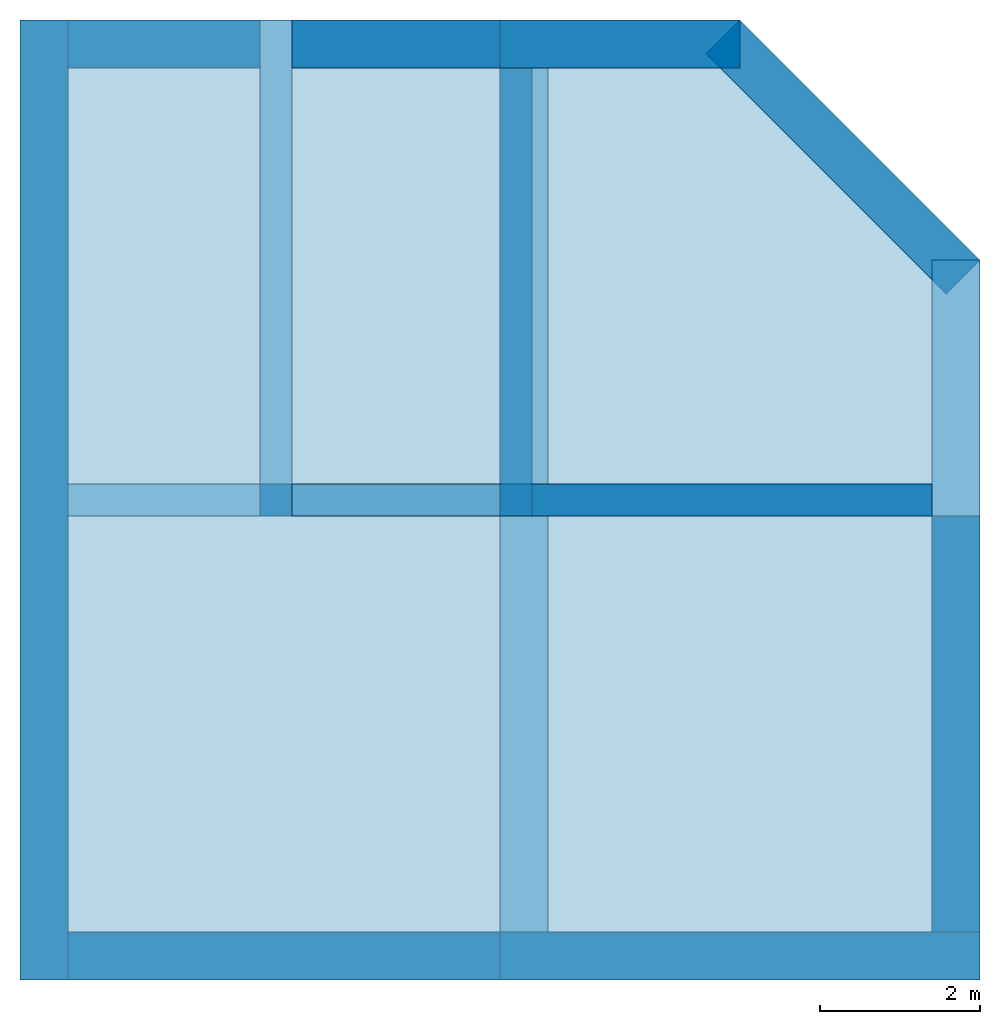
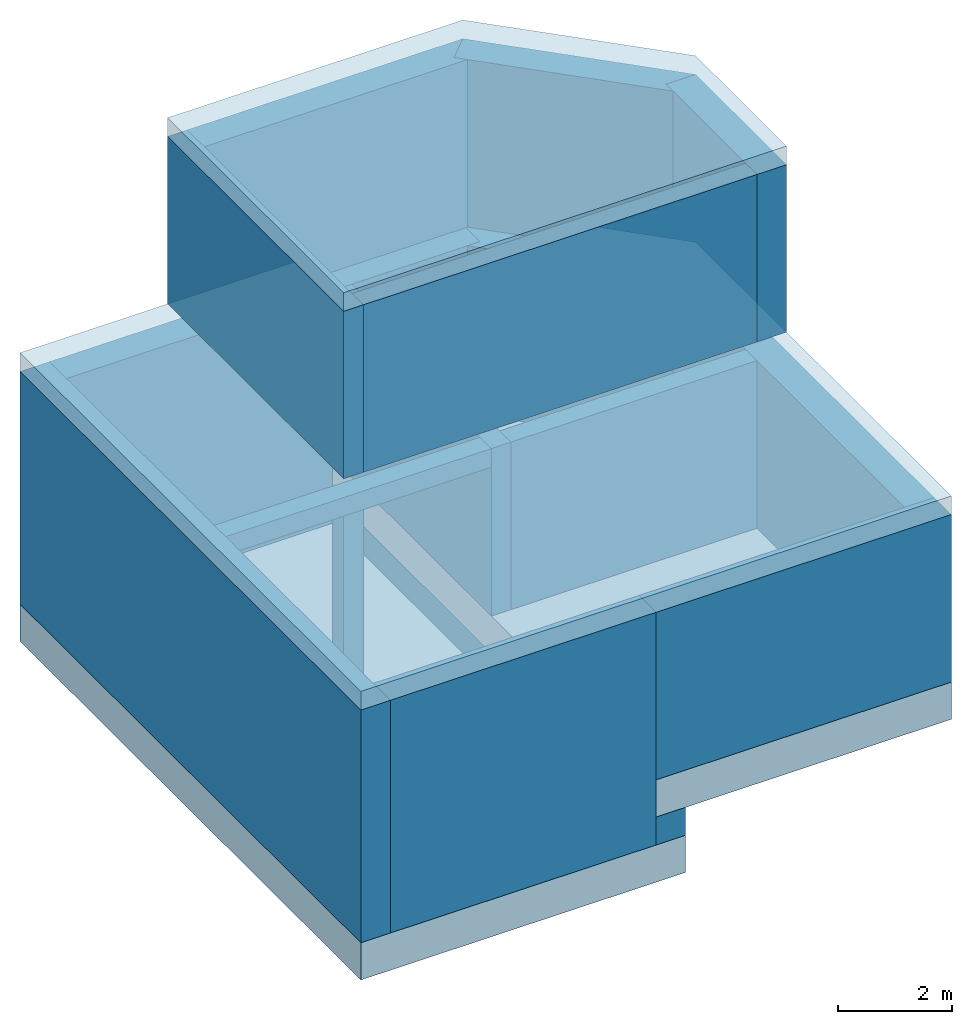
# One storey: 15 walls, 4 slabs, 1 beam, 1 column, 21 elements without a shape of their own.
"""IFC2X3 building model written with IfcOpenShell, lengths in millimetres."""

import ifcopenshell
import ifcopenshell.guid

model = None  # the IFC model being written
_history = None  # IfcOwnerHistory: only IFC2X3 demands one
_inside = {}  # id of a spatial element -> (the spatial element, [elements in it])
_under = {}  # id of a project, library or spatial element -> (it, [spatial elements below it])
_declared = {}  # id of a project -> (the project, [libraries it declares])
_typed = {}  # id of a type object -> (the type object, [elements of that type])
_made_of = {}  # id of a material, layer set ... -> (it, [elements and type objects made of it])


def new_model(schema):
    """Start an empty IFC model of exactly this schema.

    Asked for "IFC4X3", IfcOpenShell would pick the latest addendum, in which some entities
    have other attributes; the version numbers below select the first issue.
    IFC2X3 requires an IfcOwnerHistory on every rooted entity: one is made here for all.
    """
    global model, _history
    if schema == "IFC4X3":
        model = ifcopenshell.file(schema_version=(4, 3, 0, 0))
    else:
        model = ifcopenshell.file(schema=schema)
    _inside.clear()
    _under.clear()
    _declared.clear()
    _typed.clear()
    _made_of.clear()
    _history = None
    if model.schema == "IFC2X3":
        org = make("IfcOrganization", Name="unknown")
        user = make(
            "IfcPersonAndOrganization",
            ThePerson=make("IfcPerson", FamilyName="unknown"),
            TheOrganization=org,
        )
        app = make(
            "IfcApplication",
            ApplicationDeveloper=org,
            Version="unknown",
            ApplicationFullName="unknown",
            ApplicationIdentifier="unknown",
        )
        _history = make(
            "IfcOwnerHistory",
            OwningUser=user,
            OwningApplication=app,
            ChangeAction="ADDED",
            CreationDate=0,
        )
    return model


def make(cls, **values):
    """One entity of the class cls with the attributes given. An attribute that is None is left unset."""
    return model.create_entity(
        cls, **{name: value for name, value in values.items() if value is not None}
    )


def rooted(cls, **values):
    """An entity with a GlobalId (a new one), such as an element, a storey or a relation."""
    return make(cls, GlobalId=ifcopenshell.guid.new(), OwnerHistory=_history, **values)


def si_unit(unit_type, name, prefix=None):
    """IfcSIUnit, for example si_unit("LENGTHUNIT", "METRE", prefix="MILLI")."""
    return make("IfcSIUnit", UnitType=unit_type, Prefix=prefix, Name=name)


def assignment(units):
    """IfcUnitAssignment: the units of a project."""
    return None if units is None else make("IfcUnitAssignment", Units=units)


def point(xyz):
    """IfcCartesianPoint."""
    return None if xyz is None else make("IfcCartesianPoint", Coordinates=xyz)


def direction(xyz):
    """IfcDirection."""
    return None if xyz is None else make("IfcDirection", DirectionRatios=xyz)


def frame(location, z_axis=None, x_axis=None):
    """IfcAxis2Placement3D, a coordinate frame: its origin and axes. An axis left out is left unset."""
    return make(
        "IfcAxis2Placement3D",
        Location=point(location),
        Axis=direction(z_axis),
        RefDirection=direction(x_axis),
    )


def frame_2d(location, x_axis=None):
    """IfcAxis2Placement2D, a coordinate frame in the plane: its origin and x axis."""
    return make(
        "IfcAxis2Placement2D", Location=point(location), RefDirection=direction(x_axis)
    )


def origin_with_axes():
    """The frame at (0, 0, 0) with the z axis (0, 0, 1) and the x axis (1, 0, 0) written out."""
    return frame((0.0, 0.0, 0.0), z_axis=(0.0, 0.0, 1.0), x_axis=(1.0, 0.0, 0.0))


def origin_2d_with_axis():
    """The frame at (0, 0) in the plane with the x axis (1, 0) written out."""
    return frame_2d((0.0, 0.0), x_axis=(1.0, 0.0))


def place(relative_to, where):
    """IfcLocalPlacement: puts the frame where relative to a parent placement (None: the world)."""
    return make(
        "IfcLocalPlacement", PlacementRelTo=relative_to, RelativePlacement=where
    )


def context(
    kind, dimensions, precision=None, world=None, true_north=None, identifier=None
):
    """IfcGeometricRepresentationContext, for example the 3D "Model" context."""
    return make(
        "IfcGeometricRepresentationContext",
        ContextIdentifier=identifier,
        ContextType=kind,
        CoordinateSpaceDimension=dimensions,
        Precision=precision,
        WorldCoordinateSystem=world,
        TrueNorth=true_north,
    )


def subcontext(parent, identifier, kind, view, scale=None):
    """IfcGeometricRepresentationSubContext, for example "Body" below "Model"."""
    return make(
        "IfcGeometricRepresentationSubContext",
        ContextIdentifier=identifier,
        ContextType=kind,
        ParentContext=parent,
        TargetScale=scale,
        TargetView=view,
    )


def project(units=None, contexts=None):
    """IfcProject with its units and contexts."""
    return rooted(
        "IfcProject",
        Name="project",
        RepresentationContexts=contexts,
        UnitsInContext=assignment(units),
    )


def spatial(cls, under=None, at=None, **own):
    """A site, building, storey or space (cls), placed at a placement, below another one or the project."""
    s = rooted(cls, ObjectPlacement=at, **own)
    if under is not None:
        _under.setdefault(under.id(), (under, []))[1].append(s)
    return s


def polyline(points):
    """IfcPolyline through the points."""
    return make("IfcPolyline", Points=[point(p) for p in points])


def profile(cls, at=None, kind="AREA", **sizes):
    """A parametric profile (cls). Its sizes go by their IFC names, for example OverallWidth=200.0."""
    return make(cls, ProfileType=kind, Position=at, **sizes)


def rectangle(**sizes):
    """IfcRectangleProfileDef."""
    return profile("IfcRectangleProfileDef", **sizes)


def outline(outer, holes=None, kind="AREA"):
    """IfcArbitraryClosedProfileDef: a profile drawn as a closed curve; with holes, ...WithVoids."""
    if holes is None:
        return make("IfcArbitraryClosedProfileDef", ProfileType=kind, OuterCurve=outer)
    return make(
        "IfcArbitraryProfileDefWithVoids",
        ProfileType=kind,
        OuterCurve=outer,
        InnerCurves=holes,
    )


def extrude(swept, where, along, depth):
    """IfcExtrudedAreaSolid: the profile swept, set in the frame where, extruded along a direction by depth."""
    return make(
        "IfcExtrudedAreaSolid",
        SweptArea=swept,
        Position=where,
        ExtrudedDirection=direction(along),
        Depth=depth,
    )


def shape(context_of_items, identifier, shape_type, items):
    """IfcShapeRepresentation: the items that make up one representation, for example the "Body"."""
    return make(
        "IfcShapeRepresentation",
        ContextOfItems=context_of_items,
        RepresentationIdentifier=identifier,
        RepresentationType=shape_type,
        Items=items,
    )


def material(Name=None, Category=None):
    """IfcMaterial."""
    return make("IfcMaterial", Name=Name, Category=Category)


def made_of(thing, what):
    """Note that an element or type object is made of a material, layer set ...; save() writes the relation."""
    if what is not None:
        _made_of.setdefault(what.id(), (what, []))[1].append(thing)
    return thing


def type_object(cls, material=None, **own):
    """A type object (cls), such as IfcWallType, which elements share."""
    return made_of(rooted(cls, **own), material)


def element(
    cls,
    number,
    at=None,
    inside=None,
    cuts=None,
    type_object=None,
    material=None,
    context=None,
    identifier="Body",
    shape_type=None,
    held_by="IfcProductDefinitionShape",
    body=None,
    shapes=None,
    **own,
):
    """One element of the class cls, such as IfcWall. Its Tag is "e" and its number.

    at: its placement. inside: the storey or other place that contains it. cuts: it is an
    opening in that element (IfcRelVoidsElement). A single representation is given by context,
    identifier, shape_type and body (its items); several are given by shapes. held_by: the class
    of the entity that holds the representations. save() writes the other relations.
    """
    e = rooted(cls, Tag="e%d" % number, ObjectPlacement=at, **own)
    if body is not None:
        shapes = [shape(context, identifier, shape_type, body)]
    if shapes is not None:
        e.Representation = make(held_by, Representations=shapes)
    if inside is not None:
        _inside.setdefault(inside.id(), (inside, []))[1].append(e)
    if cuts is not None:
        rooted(
            "IfcRelVoidsElement", RelatingBuildingElement=cuts, RelatedOpeningElement=e
        )
    if type_object is not None:
        _typed.setdefault(type_object.id(), (type_object, []))[1].append(e)
    return made_of(e, material)


def aggregate(whole, parts):
    """IfcRelAggregates: a whole, such as a stair, and the parts it consists of."""
    return rooted("IfcRelAggregates", RelatingObject=whole, RelatedObjects=parts)


def save(model, path):
    """Write the relations noted so far, then the file.

    IfcRelAggregates (storeys below a building ...), IfcRelContainedInSpatialStructure (elements
    in a storey), IfcRelDefinesByType, IfcRelAssociatesMaterial and IfcRelDeclares: one each for
    every whole, place, type object, material and project.
    """
    for whole, parts in _under.values():
        aggregate(whole, parts)
    for where, things in _inside.values():
        rooted(
            "IfcRelContainedInSpatialStructure",
            RelatedElements=things,
            RelatingStructure=where,
        )
    for kind, things in _typed.values():
        rooted("IfcRelDefinesByType", RelatedObjects=things, RelatingType=kind)
    for what, things in _made_of.values():
        rooted("IfcRelAssociatesMaterial", RelatedObjects=things, RelatingMaterial=what)
    for by, libraries in _declared.values():
        rooted("IfcRelDeclares", RelatingContext=by, RelatedDefinitions=libraries)
    model.write(path)


model = new_model("IFC2X3")

# Units and contexts
model_context = context("Model", 3, precision=1e-05, world=origin_with_axes())
body_context = subcontext(model_context, "Body", "Model", "MODEL_VIEW")
ifc_project = project(units=[si_unit("LENGTHUNIT", "METRE", prefix="MILLI"), si_unit("AREAUNIT", "SQUARE_METRE"), si_unit("VOLUMEUNIT", "CUBIC_METRE"), si_unit("MASSUNIT", "GRAM", prefix="KILO"), si_unit("TIMEUNIT", "SECOND"), si_unit("PLANEANGLEUNIT", "RADIAN"), si_unit("SOLIDANGLEUNIT", "STERADIAN"), si_unit("THERMODYNAMICTEMPERATUREUNIT", "DEGREE_CELSIUS"), si_unit("LUMINOUSINTENSITYUNIT", "LUMEN")], contexts=[model_context])

# Site, building, storey
site_placement = place(None, origin_with_axes())
site = spatial("IfcSite", under=ifc_project, at=site_placement, Name="Undefined", CompositionType="ELEMENT")
building_placement = place(site_placement, origin_with_axes())
building = spatial("IfcBuilding", under=site, at=building_placement, Name="Undefined", CompositionType="ELEMENT")
storey_placement = place(building_placement, origin_with_axes())
storey = spatial("IfcBuildingStorey", under=building, at=storey_placement, Name="Undefined", CompositionType="ELEMENT", Elevation=0.0)

# Assembly, column
assembly_1_placement = place(storey_placement, origin_with_axes())
assembly_1 = element("IfcElementAssembly", 1, at=assembly_1_placement, inside=storey, Name="COLUMN", AssemblyPlace="NOTDEFINED", PredefinedType="REINFORCEMENT_UNIT")
ifc_material_1 = material(Name="CONCRETE/B30_XC3")
column_type = type_object("IfcColumnType", Name="400*400", PredefinedType="NOTDEFINED")
column_placement = place(assembly_1_placement, frame((3200.0, 6000.0, 0.0), z_axis=(0.0, 0.0, 1.0), x_axis=(0.0, 1.0, 0.0)))
column = element("IfcColumn", 2, at=column_placement, type_object=column_type, material=ifc_material_1, Name="COLUMN", ObjectType="400*400", context=body_context, shape_type="SweptSolid", body=[
    extrude(rectangle(XDim=400.0, YDim=400.0, at=origin_2d_with_axis()), frame((0.0, 0.0, 4600.0), z_axis=(0.0, 0.0, -1.0), x_axis=(0.0, 1.0, 0.0)), (0.0, 0.0, 1.0), 4600.0),
])
aggregate(assembly_1, [column])

# Assembly, beam
assembly_2_placement = place(storey_placement, origin_with_axes())
assembly_2 = element("IfcElementAssembly", 3, at=assembly_2_placement, inside=storey, Name="BEAM", AssemblyPlace="NOTDEFINED", PredefinedType="REINFORCEMENT_UNIT")
beam_type = type_object("IfcBeamType", Name="400*400", PredefinedType="NOTDEFINED")
beam_placement = place(assembly_2_placement, frame((600.0, 6000.0, 4800.0), z_axis=(0.0, 0.0, 1.0), x_axis=(1.0, 0.0, 0.0)))
beam = element("IfcBeam", 4, at=beam_placement, type_object=beam_type, material=ifc_material_1, Name="BEAM", ObjectType="400*400", context=body_context, shape_type="SweptSolid", body=[
    extrude(rectangle(XDim=400.0, YDim=400.0, at=origin_2d_with_axis()), frame((5400.0, 0.0, 0.0), z_axis=(-1.0, 0.0, 0.0), x_axis=(0.0, -1.0, 0.0)), (0.0, 0.0, 1.0), 5400.0),
])
aggregate(assembly_2, [beam])

# Assembly, slab
assembly_3_placement = place(storey_placement, origin_with_axes())
assembly_3 = element("IfcElementAssembly", 5, at=assembly_3_placement, inside=storey, Name="SLAB", AssemblyPlace="NOTDEFINED", PredefinedType="REINFORCEMENT_UNIT")
ifc_material_2 = material(Name="CONCRETE/B45_XA3,XS3_Sulphat")
slab_type_1 = type_object("IfcSlabType", Name="400*6200", PredefinedType="NOTDEFINED")
slab_1_placement = place(assembly_3_placement, frame((3000.0, 12000.0, 9200.0), z_axis=(0.0, 0.0, 1.0), x_axis=(0.0, -1.0, 0.0)))
slab_1 = element("IfcSlab", 6, at=slab_1_placement, type_object=slab_type_1, material=ifc_material_2, Name="SLAB", ObjectType="400*6200", PredefinedType="FLOOR", context=body_context, shape_type="SweptSolid", body=[
    extrude(outline(polyline([(0.0, 0.0), (6200.0, 4.54747350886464e-13), (6200.0, 9000.0), (3000.00000000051, 9000.0000000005), (0.0, 6000.00000000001), (0.0, 0.0)])), frame((0.0, 0.0, -200.0), z_axis=(0.0, 0.0, 1.0), x_axis=(1.0, 0.0, 0.0)), (0.0, 0.0, 1.0), 400.0),
])
aggregate(assembly_3, [slab_1])

assembly_4_placement = place(storey_placement, origin_with_axes())
assembly_4 = element("IfcElementAssembly", 7, at=assembly_4_placement, inside=storey, Name="SLAB_Roof", AssemblyPlace="NOTDEFINED", PredefinedType="REINFORCEMENT_UNIT")
slab_type_2 = type_object("IfcSlabType", Name="400*12000", PredefinedType="NOTDEFINED")
slab_2_placement = place(assembly_4_placement, frame((5.6843418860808e-13, 12000.0, 5200.0), z_axis=(0.0, 0.0, 1.0), x_axis=(0.0, -1.0, 0.0)))
slab_2 = element("IfcSlab", 8, at=slab_2_placement, type_object=slab_type_2, material=ifc_material_2, Name="SLAB_Roof", ObjectType="400*12000", PredefinedType="FLOOR", context=body_context, shape_type="SweptSolid", body=[
    extrude(outline(polyline([(0.0, 0.0), (12000.0, 0.0), (12000.0, 12000.0), (3000.0, 12000.0), (-1.81898940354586e-12, 9000.0), (0.0, 0.0)])), frame((0.0, 0.0, -200.0), z_axis=(0.0, 0.0, 1.0), x_axis=(1.0, 0.0, 0.0)), (0.0, 0.0, 1.0), 400.0),
])
aggregate(assembly_4, [slab_2])

assembly_5_placement = place(storey_placement, origin_with_axes())
assembly_5 = element("IfcElementAssembly", 9, at=assembly_5_placement, inside=storey, Name="SLAB_Found", AssemblyPlace="NOTDEFINED", PredefinedType="REINFORCEMENT_UNIT")
slab_type_3 = type_object("IfcSlabType", Name="800*6000", PredefinedType="NOTDEFINED")
slab_3_placement = place(assembly_5_placement, frame((6000.0, 12000.0, 1000.0), z_axis=(0.0, 0.0, 1.0), x_axis=(0.0, -1.0, 0.0)))
slab_3 = element("IfcSlab", 10, at=slab_3_placement, type_object=slab_type_3, material=ifc_material_2, Name="SLAB_Found", ObjectType="800*6000", PredefinedType="FLOOR", context=body_context, shape_type="SweptSolid", body=[
    extrude(outline(polyline([(0.0, 0.0), (12000.0, 0.0), (12000.0, 6000.0), (3000.0, 6000.0), (0.0, 3000.0), (0.0, 0.0)])), frame((0.0, 0.0, -400.0), z_axis=(0.0, 0.0, 1.0), x_axis=(1.0, 0.0, 0.0)), (0.0, 0.0, 1.0), 800.0),
])
aggregate(assembly_5, [slab_3])

assembly_6_placement = place(storey_placement, origin_with_axes())
assembly_6 = element("IfcElementAssembly", 11, at=assembly_6_placement, inside=storey, Name="SLAB_Found", AssemblyPlace="NOTDEFINED", PredefinedType="REINFORCEMENT_UNIT")
slab_type_4 = type_object("IfcSlabType", Name="800*6600", PredefinedType="NOTDEFINED")
slab_4_placement = place(assembly_6_placement, frame((0.0, 12000.0, -400.0), z_axis=(0.0, 0.0, 1.0), x_axis=(0.0, -1.0, 0.0)))
slab_4 = element("IfcSlab", 12, at=slab_4_placement, type_object=slab_type_4, material=ifc_material_2, Name="SLAB_Found", ObjectType="800*6600", PredefinedType="FLOOR", context=body_context, shape_type="SweptSolid", body=[
    extrude(outline(polyline([(0.0, 0.0), (12000.0, 0.0), (12000.0, 6600.0), (-3.63797880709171e-12, 6600.0), (0.0, 0.0)])), frame((0.0, 0.0, -400.0), z_axis=(0.0, 0.0, 1.0), x_axis=(1.0, 0.0, 0.0)), (0.0, 0.0, 1.0), 800.0),
])
aggregate(assembly_6, [slab_4])

# Assembly, wall
assembly_7_placement = place(storey_placement, origin_with_axes())
assembly_7 = element("IfcElementAssembly", 13, at=assembly_7_placement, inside=storey, Name="Wall", AssemblyPlace="NOTDEFINED", PredefinedType="REINFORCEMENT_UNIT")
wall_type_1 = type_object("IfcWallType", Name="600*600", PredefinedType="NOTDEFINED")
wall_1_placement = place(assembly_7_placement, frame((6300.00000000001, -4.58442173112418e-12, 1.59161572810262e-12), z_axis=(0.0, 0.0, 1.0), x_axis=(0.0, 1.0, 0.0)))
wall_1 = element("IfcWall", 14, at=wall_1_placement, type_object=wall_type_1, material=ifc_material_2, Name="Wall", ObjectType="600*600", context=body_context, shape_type="SweptSolid", body=[
    extrude(rectangle(XDim=12000.0, YDim=600.0, at=frame_2d((0.0, 6000.00000000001), x_axis=(0.0, -1.0))), frame((0.0, 0.0, 0.0), z_axis=(0.0, 0.0, 1.0), x_axis=(0.0, -1.0, 0.0)), (0.0, 0.0, 1.0), 600.0),
])
aggregate(assembly_7, [wall_1])

assembly_8_placement = place(storey_placement, origin_with_axes())
assembly_8 = element("IfcElementAssembly", 15, at=assembly_8_placement, inside=storey, Name="Wall", AssemblyPlace="NOTDEFINED", PredefinedType="REINFORCEMENT_UNIT")
wall_type_2 = type_object("IfcWallType", Name="3600*600", PredefinedType="NOTDEFINED")
wall_2_placement = place(assembly_8_placement, frame((11787.8679656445, 8787.86796564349, 5400.0), z_axis=(0.0, 0.0, 1.0), x_axis=(-0.707106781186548, 0.707106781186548, 0.0)))
wall_2 = element("IfcWall", 16, at=wall_2_placement, type_object=wall_type_2, material=ifc_material_2, Name="Wall", ObjectType="3600*600", context=body_context, shape_type="SweptSolid", body=[
    extrude(rectangle(XDim=4242.64068712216, YDim=600.0, at=frame_2d((0.0, 2121.32034356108), x_axis=(0.0, -1.0))), frame((0.0, 0.0, 0.0), z_axis=(0.0, 0.0, 1.0), x_axis=(0.0, -1.0, 0.0)), (0.0, 0.0, 1.0), 3600.0),
])
aggregate(assembly_8, [wall_2])

assembly_9_placement = place(storey_placement, origin_with_axes())
assembly_9 = element("IfcElementAssembly", 17, at=assembly_9_placement, inside=storey, Name="Wall", AssemblyPlace="NOTDEFINED", PredefinedType="REINFORCEMENT_UNIT")
wall_3_placement = place(assembly_9_placement, frame((11700.0, 5800.0, 5400.0), z_axis=(0.0, 0.0, 1.0), x_axis=(0.0, 1.0, 0.0)))
wall_3 = element("IfcWall", 18, at=wall_3_placement, type_object=wall_type_2, material=ifc_material_2, Name="Wall", ObjectType="3600*600", context=body_context, shape_type="SweptSolid", body=[
    extrude(rectangle(XDim=3200.0, YDim=600.0, at=frame_2d((0.0, 1600.0), x_axis=(0.0, -1.0))), frame((0.0, 0.0, 0.0), z_axis=(0.0, 0.0, 1.0), x_axis=(0.0, -1.0, 0.0)), (0.0, 0.0, 1.0), 3600.0),
])
aggregate(assembly_9, [wall_3])

assembly_10_placement = place(storey_placement, origin_with_axes())
assembly_10 = element("IfcElementAssembly", 19, at=assembly_10_placement, inside=storey, Name="Wall", AssemblyPlace="NOTDEFINED", PredefinedType="REINFORCEMENT_UNIT")
wall_4_placement = place(assembly_10_placement, frame((3400.0, 11700.0, 5400.0), z_axis=(0.0, 0.0, 1.0), x_axis=(1.0, 0.0, 0.0)))
wall_4 = element("IfcWall", 20, at=wall_4_placement, type_object=wall_type_2, material=ifc_material_2, Name="Wall", ObjectType="3600*600", context=body_context, shape_type="SweptSolid", body=[
    extrude(rectangle(XDim=5600.0, YDim=600.0, at=frame_2d((0.0, 2800.0), x_axis=(0.0, -1.0))), frame((0.0, 0.0, 0.0), z_axis=(0.0, 0.0, 1.0), x_axis=(0.0, -1.0, 0.0)), (0.0, 0.0, 1.0), 3600.0),
])
aggregate(assembly_10, [wall_4])

assembly_11_placement = place(storey_placement, origin_with_axes())
assembly_11 = element("IfcElementAssembly", 21, at=assembly_11_placement, inside=storey, Name="Wall", AssemblyPlace="NOTDEFINED", PredefinedType="REINFORCEMENT_UNIT")
ifc_material_3 = material(Name="CONCRETE/Concrete_Undefined")
wall_5_placement = place(assembly_11_placement, frame((11700.0, 600.0, 1400.0), z_axis=(0.0, 0.0, 1.0), x_axis=(0.0, 1.0, 0.0)))
wall_5 = element("IfcWall", 22, at=wall_5_placement, type_object=wall_type_2, material=ifc_material_3, Name="Wall", ObjectType="3600*600", context=body_context, shape_type="SweptSolid", body=[
    extrude(rectangle(XDim=8400.0, YDim=600.0, at=frame_2d((0.0, 4200.0), x_axis=(0.0, -1.0))), frame((0.0, 0.0, 0.0), z_axis=(0.0, 0.0, 1.0), x_axis=(0.0, -1.0, 0.0)), (0.0, 0.0, 1.0), 3600.0),
])
aggregate(assembly_11, [wall_5])

assembly_12_placement = place(storey_placement, origin_with_axes())
assembly_12 = element("IfcElementAssembly", 23, at=assembly_12_placement, inside=storey, Name="Wall", AssemblyPlace="NOTDEFINED", PredefinedType="REINFORCEMENT_UNIT")
wall_6_placement = place(assembly_12_placement, frame((8787.86796564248, 11787.8679656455, 1400.0), z_axis=(0.0, 0.0, 1.0), x_axis=(0.707106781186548, -0.707106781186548, 0.0)))
wall_6 = element("IfcWall", 24, at=wall_6_placement, type_object=wall_type_2, material=ifc_material_3, Name="Wall", ObjectType="3600*600", context=body_context, shape_type="SweptSolid", body=[
    extrude(rectangle(XDim=4242.64068712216, YDim=600.0, at=frame_2d((0.0, 2121.32034356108), x_axis=(0.0, -1.0))), frame((0.0, 0.0, 0.0), z_axis=(0.0, 0.0, 1.0), x_axis=(0.0, -1.0, 0.0)), (0.0, 0.0, 1.0), 3600.0),
])
aggregate(assembly_12, [wall_6])

assembly_13_placement = place(storey_placement, origin_with_axes())
assembly_13 = element("IfcElementAssembly", 25, at=assembly_13_placement, inside=storey, Name="Wall", AssemblyPlace="NOTDEFINED", PredefinedType="REINFORCEMENT_UNIT")
wall_7_placement = place(assembly_13_placement, frame((6000.0, 300.0, 1400.0), z_axis=(0.0, 0.0, 1.0), x_axis=(1.0, 0.0, 0.0)))
wall_7 = element("IfcWall", 26, at=wall_7_placement, type_object=wall_type_2, material=ifc_material_3, Name="Wall", ObjectType="3600*600", context=body_context, shape_type="SweptSolid", body=[
    extrude(rectangle(XDim=6000.0, YDim=600.0, at=frame_2d((0.0, 3000.0), x_axis=(0.0, -1.0))), frame((0.0, 0.0, 0.0), z_axis=(0.0, 0.0, 1.0), x_axis=(0.0, -1.0, 0.0)), (0.0, 0.0, 1.0), 3600.0),
])
aggregate(assembly_13, [wall_7])

assembly_14_placement = place(storey_placement, origin_with_axes())
assembly_14 = element("IfcElementAssembly", 27, at=assembly_14_placement, inside=storey, Name="Wall", AssemblyPlace="NOTDEFINED", PredefinedType="REINFORCEMENT_UNIT")
wall_8_placement = place(assembly_14_placement, frame((6000.0, 11700.0, 1400.0), z_axis=(0.0, 0.0, 1.0), x_axis=(1.0, 0.0, 0.0)))
wall_8 = element("IfcWall", 28, at=wall_8_placement, type_object=wall_type_2, material=ifc_material_3, Name="Wall", ObjectType="3600*600", context=body_context, shape_type="SweptSolid", body=[
    extrude(rectangle(XDim=3000.0, YDim=600.0, at=frame_2d((0.0, 1500.0), x_axis=(0.0, -1.0))), frame((0.0, 0.0, 0.0), z_axis=(0.0, 0.0, 1.0), x_axis=(0.0, -1.0, 0.0)), (0.0, 0.0, 1.0), 3600.0),
])
aggregate(assembly_14, [wall_8])

assembly_15_placement = place(storey_placement, origin_with_axes())
assembly_15 = element("IfcElementAssembly", 29, at=assembly_15_placement, inside=storey, Name="Wall", AssemblyPlace="NOTDEFINED", PredefinedType="REINFORCEMENT_UNIT")
wall_type_3 = type_object("IfcWallType", Name="3600*400", PredefinedType="NOTDEFINED")
wall_9_placement = place(assembly_15_placement, frame((3400.0, 6000.0, 5400.0), z_axis=(0.0, 0.0, 1.0), x_axis=(1.0, 0.0, 0.0)))
wall_9 = element("IfcWall", 30, at=wall_9_placement, type_object=wall_type_3, material=ifc_material_2, Name="Wall", ObjectType="3600*400", context=body_context, shape_type="SweptSolid", body=[
    extrude(rectangle(XDim=8000.0, YDim=400.0, at=frame_2d((0.0, 4000.0), x_axis=(0.0, -1.0))), frame((0.0, 0.0, 0.0), z_axis=(0.0, 0.0, 1.0), x_axis=(0.0, -1.0, 0.0)), (0.0, 0.0, 1.0), 3600.0),
])
aggregate(assembly_15, [wall_9])

assembly_16_placement = place(storey_placement, origin_with_axes())
assembly_16 = element("IfcElementAssembly", 31, at=assembly_16_placement, inside=storey, Name="Wall", AssemblyPlace="NOTDEFINED", PredefinedType="REINFORCEMENT_UNIT")
wall_10_placement = place(assembly_16_placement, frame((3200.0, 5800.0, 5400.0), z_axis=(0.0, 0.0, 1.0), x_axis=(0.0, 1.0, 0.0)))
wall_10 = element("IfcWall", 32, at=wall_10_placement, type_object=wall_type_3, material=ifc_material_2, Name="Wall", ObjectType="3600*400", context=body_context, shape_type="SweptSolid", body=[
    extrude(rectangle(XDim=6200.0, YDim=400.0, at=frame_2d((0.0, 3100.0), x_axis=(0.0, -1.0))), frame((0.0, 0.0, 0.0), z_axis=(0.0, 0.0, 1.0), x_axis=(0.0, -1.0, 0.0)), (0.0, 0.0, 1.0), 3600.0),
])
aggregate(assembly_16, [wall_10])

assembly_17_placement = place(storey_placement, origin_with_axes())
assembly_17 = element("IfcElementAssembly", 33, at=assembly_17_placement, inside=storey, Name="Wall", AssemblyPlace="NOTDEFINED", PredefinedType="REINFORCEMENT_UNIT")
wall_11_placement = place(assembly_17_placement, frame((6200.0, 5800.0, 1400.0), z_axis=(0.0, 0.0, 1.0), x_axis=(0.0, 1.0, 0.0)))
wall_11 = element("IfcWall", 34, at=wall_11_placement, type_object=wall_type_3, material=ifc_material_3, Name="Wall", ObjectType="3600*400", context=body_context, shape_type="SweptSolid", body=[
    extrude(rectangle(XDim=5600.0, YDim=400.0, at=frame_2d((0.0, 2800.0), x_axis=(0.0, -1.0))), frame((0.0, 0.0, 0.0), z_axis=(0.0, 0.0, 1.0), x_axis=(0.0, -1.0, 0.0)), (0.0, 0.0, 1.0), 3600.0),
])
aggregate(assembly_17, [wall_11])

assembly_18_placement = place(storey_placement, origin_with_axes())
assembly_18 = element("IfcElementAssembly", 35, at=assembly_18_placement, inside=storey, Name="Wall", AssemblyPlace="NOTDEFINED", PredefinedType="REINFORCEMENT_UNIT")
wall_12_placement = place(assembly_18_placement, frame((6400.0, 6000.0, 1400.0), z_axis=(0.0, 0.0, 1.0), x_axis=(1.0, 0.0, 0.0)))
wall_12 = element("IfcWall", 36, at=wall_12_placement, type_object=wall_type_3, material=ifc_material_3, Name="Wall", ObjectType="3600*400", context=body_context, shape_type="SweptSolid", body=[
    extrude(rectangle(XDim=5000.0, YDim=400.0, at=frame_2d((0.0, 2500.0), x_axis=(0.0, -1.0))), frame((0.0, 0.0, 0.0), z_axis=(0.0, 0.0, 1.0), x_axis=(0.0, -1.0, 0.0)), (0.0, 0.0, 1.0), 3600.0),
])
aggregate(assembly_18, [wall_12])

assembly_19_placement = place(storey_placement, origin_with_axes())
assembly_19 = element("IfcElementAssembly", 37, at=assembly_19_placement, inside=storey, Name="Wall", AssemblyPlace="NOTDEFINED", PredefinedType="REINFORCEMENT_UNIT")
wall_type_4 = type_object("IfcWallType", Name="5000*600", PredefinedType="NOTDEFINED")
wall_13_placement = place(assembly_19_placement, frame((599.999999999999, 300.000000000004, 0.0), z_axis=(0.0, 0.0, 1.0), x_axis=(1.0, 0.0, 0.0)))
wall_13 = element("IfcWall", 38, at=wall_13_placement, type_object=wall_type_4, material=ifc_material_3, Name="Wall", ObjectType="5000*600", context=body_context, shape_type="SweptSolid", body=[
    extrude(rectangle(XDim=5400.0, YDim=600.0, at=frame_2d((0.0, 2700.0), x_axis=(0.0, -1.0))), frame((0.0, 0.0, 0.0), z_axis=(0.0, 0.0, 1.0), x_axis=(0.0, -1.0, 0.0)), (0.0, 0.0, 1.0), 5000.0),
])
aggregate(assembly_19, [wall_13])

assembly_20_placement = place(storey_placement, origin_with_axes())
assembly_20 = element("IfcElementAssembly", 39, at=assembly_20_placement, inside=storey, Name="Wall", AssemblyPlace="NOTDEFINED", PredefinedType="REINFORCEMENT_UNIT")
wall_14_placement = place(assembly_20_placement, frame((599.999999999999, 11700.0, 0.0), z_axis=(0.0, 0.0, 1.0), x_axis=(1.0, 0.0, 0.0)))
wall_14 = element("IfcWall", 40, at=wall_14_placement, type_object=wall_type_4, material=ifc_material_3, Name="Wall", ObjectType="5000*600", context=body_context, shape_type="SweptSolid", body=[
    extrude(rectangle(XDim=5400.0, YDim=600.0, at=frame_2d((0.0, 2700.0), x_axis=(0.0, -1.0))), frame((0.0, 0.0, 0.0), z_axis=(0.0, 0.0, 1.0), x_axis=(0.0, -1.0, 0.0)), (0.0, 0.0, 1.0), 5000.0),
])
aggregate(assembly_20, [wall_14])

assembly_21_placement = place(storey_placement, origin_with_axes())
assembly_21 = element("IfcElementAssembly", 41, at=assembly_21_placement, inside=storey, Name="Wall", AssemblyPlace="NOTDEFINED", PredefinedType="REINFORCEMENT_UNIT")
wall_15_placement = place(assembly_21_placement, frame((300.0, 0.0, 0.0), z_axis=(0.0, 0.0, 1.0), x_axis=(0.0, 1.0, 0.0)))
wall_15 = element("IfcWall", 42, at=wall_15_placement, type_object=wall_type_4, material=ifc_material_3, Name="Wall", ObjectType="5000*600", context=body_context, shape_type="SweptSolid", body=[
    extrude(rectangle(XDim=12000.0, YDim=600.0, at=frame_2d((0.0, 6000.00000000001), x_axis=(0.0, -1.0))), frame((0.0, 0.0, 0.0), z_axis=(0.0, 0.0, 1.0), x_axis=(0.0, -1.0, 0.0)), (0.0, 0.0, 1.0), 5000.0),
])
aggregate(assembly_21, [wall_15])

save(model, "model.ifc")
